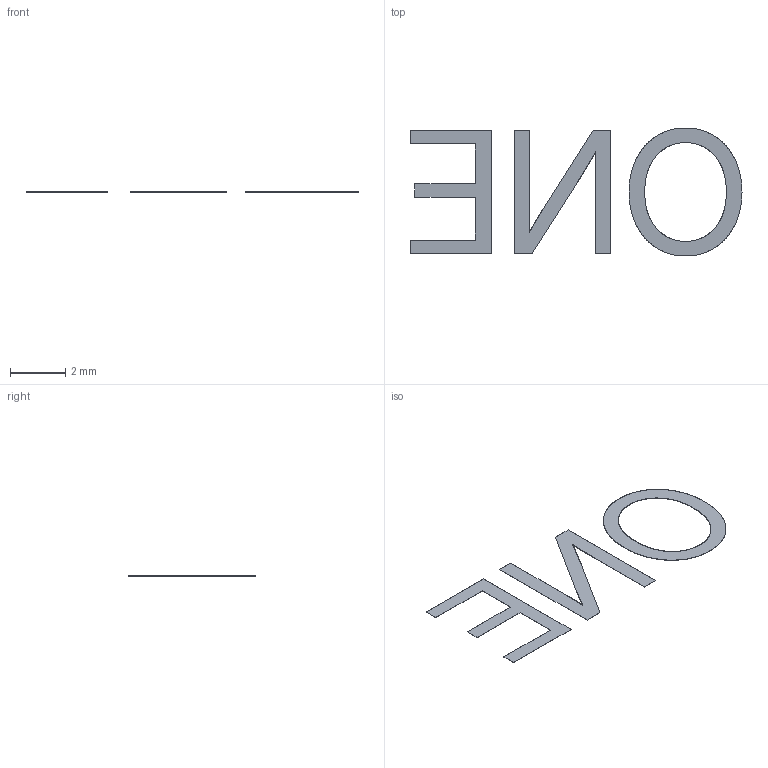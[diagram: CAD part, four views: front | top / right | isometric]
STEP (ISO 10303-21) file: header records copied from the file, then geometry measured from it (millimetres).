
FILE_DESCRIPTION(('Open CASCADE Model'),'2;1');
FILE_NAME('Open CASCADE Shape Model','2026-09-04T21:48:08',('Author'),( 'Open CASCADE'),'Open CASCADE STEP processor 7.7','Open CASCADE 7.7' ,'Unknown');
FILE_SCHEMA(('AUTOMOTIVE_DESIGN { 1 0 10303 214 1 1 1 1 }'));
Length unit declared in the file: millimetre
Products named in the file (4): Open CASCADE STEP translator 7.7 2; Open CASCADE STEP translator 7.7 2.1; Open CASCADE STEP translator 7.7 2.2; Open CASCADE STEP translator 7.7 2.3
Assembly tree (3 placements, depth 2):
  Open CASCADE STEP translator 7.7 2
    Open CASCADE STEP translator 7.7 2.1
    Open CASCADE STEP translator 7.7 2.2
    Open CASCADE STEP translator 7.7 2.3
Bounding box: 12.04 x 4.64 x 0.01 mm (x, y, z)
Volume: 0.2 mm3; surface area: 40.9 mm2
Topology: 3 solids, 3 shells, 1130 faces, 3372 edges, 2248 vertices
Faces by surface type: plane 1130
Entity records: 81056 total; most frequent: CARTESIAN_POINT 13498, DIRECTION 12384, LINE 10116, VECTOR 10116, ORIENTED_EDGE 6744, PCURVE 6744, DEFINITIONAL_REPRESENTATION 6744, EDGE_CURVE 3372
